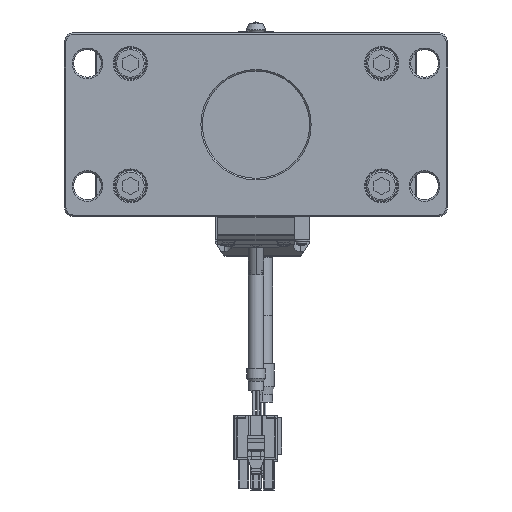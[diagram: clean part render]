
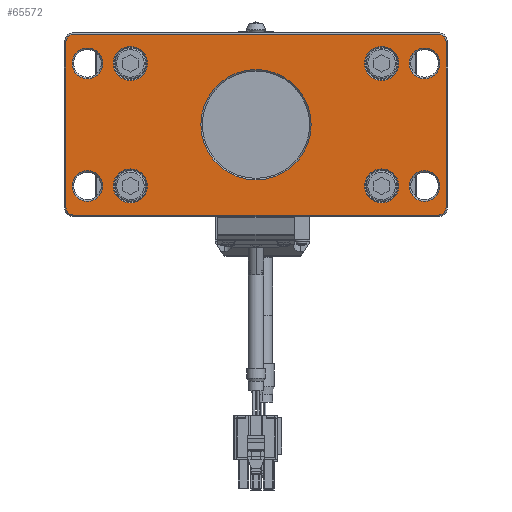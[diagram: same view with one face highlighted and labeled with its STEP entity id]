
A CAD part, front view. The second image highlights one B-rep face of the part: STEP entity #65572.
In plain terms, the highlighted planar face has unit normal (0, -1, 0) as drawn and (0, 1, 0) by its records, which use the part's own axes.
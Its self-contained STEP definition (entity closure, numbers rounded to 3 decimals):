
#64024=CARTESIAN_POINT('',(0.,6.,0.));
#64025=DIRECTION('',(0.,-1.,0.));
#64026=DIRECTION('',(1.,0.,0.));
#64027=AXIS2_PLACEMENT_3D('',#64024,#64025,#64026);
#64029=CARTESIAN_POINT('',(0.,6.,0.));
#64030=DIRECTION('',(0.,-1.,0.));
#64031=DIRECTION('',(-1.,0.,0.));
#64032=AXIS2_PLACEMENT_3D('',#64029,#64030,#64031);
#64034=CARTESIAN_POINT('',(-55.,6.,-20.));
#64035=DIRECTION('',(0.,-1.,0.));
#64036=DIRECTION('',(-1.,0.,0.));
#64037=AXIS2_PLACEMENT_3D('',#64034,#64035,#64036);
#64039=CARTESIAN_POINT('',(-55.,6.,-20.));
#64040=DIRECTION('',(0.,-1.,0.));
#64041=DIRECTION('',(1.,0.,0.));
#64042=AXIS2_PLACEMENT_3D('',#64039,#64040,#64041);
#64044=CARTESIAN_POINT('',(55.,6.,-20.));
#64045=DIRECTION('',(0.,-1.,0.));
#64046=DIRECTION('',(-1.,0.,0.));
#64047=AXIS2_PLACEMENT_3D('',#64044,#64045,#64046);
#64049=CARTESIAN_POINT('',(55.,6.,-20.));
#64050=DIRECTION('',(0.,-1.,0.));
#64051=DIRECTION('',(1.,0.,0.));
#64052=AXIS2_PLACEMENT_3D('',#64049,#64050,#64051);
#64054=CARTESIAN_POINT('',(55.,6.,20.));
#64055=DIRECTION('',(0.,-1.,0.));
#64056=DIRECTION('',(1.,0.,0.));
#64057=AXIS2_PLACEMENT_3D('',#64054,#64055,#64056);
#64059=CARTESIAN_POINT('',(55.,6.,20.));
#64060=DIRECTION('',(0.,-1.,0.));
#64061=DIRECTION('',(-1.,0.,0.));
#64062=AXIS2_PLACEMENT_3D('',#64059,#64060,#64061);
#64064=CARTESIAN_POINT('',(-55.,6.,20.));
#64065=DIRECTION('',(0.,-1.,0.));
#64066=DIRECTION('',(-1.,0.,0.));
#64067=AXIS2_PLACEMENT_3D('',#64064,#64065,#64066);
#64069=CARTESIAN_POINT('',(-55.,6.,20.));
#64070=DIRECTION('',(0.,-1.,0.));
#64071=DIRECTION('',(1.,0.,0.));
#64072=AXIS2_PLACEMENT_3D('',#64069,#64070,#64071);
#64074=CARTESIAN_POINT('',(-59.5,6.,-27.));
#64075=DIRECTION('',(0.,1.,0.));
#64076=DIRECTION('',(0.,0.,-1.));
#64077=AXIS2_PLACEMENT_3D('',#64074,#64075,#64076);
#64079=DIRECTION('',(-1.,0.,0.));
#64080=VECTOR('',#64079,119.);
#64081=CARTESIAN_POINT('',(59.5,6.,
-29.5));
#64082=LINE('',#64081,#64080);
#64083=CARTESIAN_POINT('',(59.5,6.,-27.));
#64084=DIRECTION('',(0.,1.,0.));
#64085=DIRECTION('',(1.,0.,0.));
#64086=AXIS2_PLACEMENT_3D('',#64083,#64084,#64085);
#64088=DIRECTION('',(0.,0.,-1.));
#64089=VECTOR('',#64088,54.);
#64090=CARTESIAN_POINT('',(62.,6.,27.));
#64091=LINE('',#64090,#64089);
#64092=CARTESIAN_POINT('',(59.5,6.,27.));
#64093=DIRECTION('',(0.,1.,0.));
#64094=DIRECTION('',(0.,0.,1.));
#64095=AXIS2_PLACEMENT_3D('',#64092,#64093,#64094);
#64097=DIRECTION('',(1.,0.,0.));
#64098=VECTOR('',#64097,119.);
#64099=CARTESIAN_POINT('',(-59.5,6.,
29.5));
#64100=LINE('',#64099,#64098);
#64101=CARTESIAN_POINT('',(-59.5,6.,27.));
#64102=DIRECTION('',(0.,1.,0.));
#64103=DIRECTION('',(-1.,0.,0.));
#64104=AXIS2_PLACEMENT_3D('',#64101,#64102,#64103);
#64106=DIRECTION('',(0.,0.,1.));
#64107=VECTOR('',#64106,54.);
#64108=CARTESIAN_POINT('',(-62.,6.,
-27.));
#64109=LINE('',#64108,#64107);
#64110=CARTESIAN_POINT('',(41.,6.,20.));
#64111=DIRECTION('',(0.,-1.,0.));
#64112=DIRECTION('',(1.,0.,0.));
#64113=AXIS2_PLACEMENT_3D('',#64110,#64111,#64112);
#64115=CARTESIAN_POINT('',(41.,6.,20.));
#64116=DIRECTION('',(0.,-1.,0.));
#64117=DIRECTION('',(-1.,0.,0.));
#64118=AXIS2_PLACEMENT_3D('',#64115,#64116,#64117);
#64120=CARTESIAN_POINT('',(-41.,6.,20.));
#64121=DIRECTION('',(0.,-1.,0.));
#64122=DIRECTION('',(1.,0.,0.));
#64123=AXIS2_PLACEMENT_3D('',#64120,#64121,#64122);
#64125=CARTESIAN_POINT('',(-41.,6.,20.));
#64126=DIRECTION('',(0.,-1.,0.));
#64127=DIRECTION('',(-1.,0.,0.));
#64128=AXIS2_PLACEMENT_3D('',#64125,#64126,#64127);
#64130=CARTESIAN_POINT('',(41.,6.,-20.));
#64131=DIRECTION('',(0.,-1.,0.));
#64132=DIRECTION('',(1.,0.,0.));
#64133=AXIS2_PLACEMENT_3D('',#64130,#64131,#64132);
#64135=CARTESIAN_POINT('',(41.,6.,-20.));
#64136=DIRECTION('',(0.,-1.,0.));
#64137=DIRECTION('',(-1.,0.,0.));
#64138=AXIS2_PLACEMENT_3D('',#64135,#64136,#64137);
#64140=CARTESIAN_POINT('',(-41.,6.,-20.));
#64141=DIRECTION('',(0.,-1.,0.));
#64142=DIRECTION('',(1.,0.,0.));
#64143=AXIS2_PLACEMENT_3D('',#64140,#64141,#64142);
#64145=CARTESIAN_POINT('',(-41.,6.,-20.));
#64146=DIRECTION('',(0.,-1.,0.));
#64147=DIRECTION('',(-1.,0.,0.));
#64148=AXIS2_PLACEMENT_3D('',#64145,#64146,#64147);
#65056=CARTESIAN_POINT('',(18.,6.,0.));
#65057=CARTESIAN_POINT('',(-18.,6.,0.));
#65058=VERTEX_POINT('',#65056);
#65059=VERTEX_POINT('',#65057);
#65072=CARTESIAN_POINT('',(-60.,6.,-20.));
#65073=CARTESIAN_POINT('',(-50.,6.,-20.));
#65074=VERTEX_POINT('',#65072);
#65075=VERTEX_POINT('',#65073);
#65080=CARTESIAN_POINT('',(50.,6.,-20.));
#65081=CARTESIAN_POINT('',(60.,6.,-20.));
#65082=VERTEX_POINT('',#65080);
#65083=VERTEX_POINT('',#65081);
#65088=CARTESIAN_POINT('',(60.,6.,20.));
#65089=CARTESIAN_POINT('',(50.,6.,20.));
#65090=VERTEX_POINT('',#65088);
#65091=VERTEX_POINT('',#65089);
#65096=CARTESIAN_POINT('',(-60.,6.,20.));
#65097=CARTESIAN_POINT('',(-50.,6.,20.));
#65098=VERTEX_POINT('',#65096);
#65099=VERTEX_POINT('',#65097);
#65168=CARTESIAN_POINT('',(-59.5,6.,-29.5));
#65169=CARTESIAN_POINT('',(-62.,6.,-27.));
#65170=VERTEX_POINT('',#65168);
#65171=VERTEX_POINT('',#65169);
#65176=CARTESIAN_POINT('',(-62.,6.,
27.));
#65177=VERTEX_POINT('',#65176);
#65180=CARTESIAN_POINT('',(-59.5,6.,29.5));
#65181=VERTEX_POINT('',#65180);
#65184=CARTESIAN_POINT('',(59.5,6.,29.5));
#65185=VERTEX_POINT('',#65184);
#65188=CARTESIAN_POINT('',(62.,6.,27.));
#65189=VERTEX_POINT('',#65188);
#65192=CARTESIAN_POINT('',(62.,6.,
-27.));
#65193=VERTEX_POINT('',#65192);
#65196=CARTESIAN_POINT('',(59.5,6.,-29.5));
#65197=VERTEX_POINT('',#65196);
#65216=CARTESIAN_POINT('',(46.55,6.,20.));
#65217=CARTESIAN_POINT('',(35.45,6.,20.));
#65218=VERTEX_POINT('',#65216);
#65219=VERTEX_POINT('',#65217);
#65240=CARTESIAN_POINT('',(-35.45,6.,20.));
#65241=CARTESIAN_POINT('',(-46.55,6.,20.));
#65242=VERTEX_POINT('',#65240);
#65243=VERTEX_POINT('',#65241);
#65256=CARTESIAN_POINT('',(46.55,6.,-20.));
#65257=CARTESIAN_POINT('',(35.45,6.,-20.));
#65258=VERTEX_POINT('',#65256);
#65259=VERTEX_POINT('',#65257);
#65264=CARTESIAN_POINT('',(-35.45,6.,-20.));
#65265=CARTESIAN_POINT('',(-46.55,6.,-20.));
#65266=VERTEX_POINT('',#65264);
#65267=VERTEX_POINT('',#65265);
#65496=CARTESIAN_POINT('',(0.,6.,0.));
#65497=DIRECTION('',(0.,1.,0.));
#65498=DIRECTION('',(1.,0.,0.));
#65499=AXIS2_PLACEMENT_3D('',#65496,#65497,#65498);
#65500=PLANE('',#65499);
#65502=ORIENTED_EDGE('',*,*,#65501,.F.);
#65504=ORIENTED_EDGE('',*,*,#65503,.F.);
#65506=ORIENTED_EDGE('',*,*,#65505,.F.);
#65508=ORIENTED_EDGE('',*,*,#65507,.F.);
#65510=ORIENTED_EDGE('',*,*,#65509,.F.);
#65512=ORIENTED_EDGE('',*,*,#65511,.F.);
#65514=ORIENTED_EDGE('',*,*,#65513,.F.);
#65516=ORIENTED_EDGE('',*,*,#65515,.F.);
#65517=EDGE_LOOP('',(#65502,#65504,#65506,#65508,#65510,#65512,#65514,#65516));
#65518=FACE_OUTER_BOUND('',#65517,.F.);
#65520=ORIENTED_EDGE('',*,*,#65519,.F.);
#65522=ORIENTED_EDGE('',*,*,#65521,.F.);
#65523=EDGE_LOOP('',(#65520,#65522));
#65524=FACE_BOUND('',#65523,.F.);
#65526=ORIENTED_EDGE('',*,*,#65525,.F.);
#65528=ORIENTED_EDGE('',*,*,#65527,.F.);
#65529=EDGE_LOOP('',(#65526,#65528));
#65530=FACE_BOUND('',#65529,.F.);
#65532=ORIENTED_EDGE('',*,*,#65531,.F.);
#65534=ORIENTED_EDGE('',*,*,#65533,.F.);
#65535=EDGE_LOOP('',(#65532,#65534));
#65536=FACE_BOUND('',#65535,.F.);
#65538=ORIENTED_EDGE('',*,*,#65537,.F.);
#65540=ORIENTED_EDGE('',*,*,#65539,.F.);
#65541=EDGE_LOOP('',(#65538,#65540));
#65542=FACE_BOUND('',#65541,.F.);
#65544=ORIENTED_EDGE('',*,*,#65543,.F.);
#65545=ORIENTED_EDGE('',*,*,#65486,.F.);
#65546=EDGE_LOOP('',(#65544,#65545));
#65547=FACE_BOUND('',#65546,.F.);
#65549=ORIENTED_EDGE('',*,*,#65548,.F.);
#65551=ORIENTED_EDGE('',*,*,#65550,.F.);
#65552=EDGE_LOOP('',(#65549,#65551));
#65553=FACE_BOUND('',#65552,.F.);
#65555=ORIENTED_EDGE('',*,*,#65554,.F.);
#65557=ORIENTED_EDGE('',*,*,#65556,.F.);
#65558=EDGE_LOOP('',(#65555,#65557));
#65559=FACE_BOUND('',#65558,.F.);
#65561=ORIENTED_EDGE('',*,*,#65560,.F.);
#65563=ORIENTED_EDGE('',*,*,#65562,.F.);
#65564=EDGE_LOOP('',(#65561,#65563));
#65565=FACE_BOUND('',#65564,.F.);
#65567=ORIENTED_EDGE('',*,*,#65566,.F.);
#65569=ORIENTED_EDGE('',*,*,#65568,.F.);
#65570=EDGE_LOOP('',(#65567,#65569));
#65571=FACE_BOUND('',#65570,.F.);
#65572=ADVANCED_FACE('',(#65518,#65524,#65530,#65536,#65542,#65547,#65553,
#65559,#65565,#65571),#65500,.T.);
#64028=CIRCLE('',#64027,18.);
#64033=CIRCLE('',#64032,18.);
#64038=CIRCLE('',#64037,5.);
#64043=CIRCLE('',#64042,5.);
#64048=CIRCLE('',#64047,5.);
#64053=CIRCLE('',#64052,5.);
#64058=CIRCLE('',#64057,5.);
#64063=CIRCLE('',#64062,5.);
#64068=CIRCLE('',#64067,5.);
#64073=CIRCLE('',#64072,5.);
#64078=CIRCLE('',#64077,2.5);
#64087=CIRCLE('',#64086,2.5);
#64096=CIRCLE('',#64095,2.5);
#64105=CIRCLE('',#64104,2.5);
#64114=CIRCLE('',#64113,5.55);
#64119=CIRCLE('',#64118,5.55);
#64124=CIRCLE('',#64123,5.55);
#64129=CIRCLE('',#64128,5.55);
#64134=CIRCLE('',#64133,5.55);
#64139=CIRCLE('',#64138,5.55);
#64144=CIRCLE('',#64143,5.55);
#64149=CIRCLE('',#64148,5.55);
#65486=EDGE_CURVE('',#65059,#65058,#64033,.T.);
#65501=EDGE_CURVE('',#65170,#65171,#64078,.T.);
#65503=EDGE_CURVE('',#65197,#65170,#64082,.T.);
#65505=EDGE_CURVE('',#65193,#65197,#64087,.T.);
#65507=EDGE_CURVE('',#65189,#65193,#64091,.T.);
#65509=EDGE_CURVE('',#65185,#65189,#64096,.T.);
#65511=EDGE_CURVE('',#65181,#65185,#64100,.T.);
#65513=EDGE_CURVE('',#65177,#65181,#64105,.T.);
#65515=EDGE_CURVE('',#65171,#65177,#64109,.T.);
#65519=EDGE_CURVE('',#65074,#65075,#64038,.T.);
#65521=EDGE_CURVE('',#65075,#65074,#64043,.T.);
#65525=EDGE_CURVE('',#65082,#65083,#64048,.T.);
#65527=EDGE_CURVE('',#65083,#65082,#64053,.T.);
#65531=EDGE_CURVE('',#65090,#65091,#64058,.T.);
#65533=EDGE_CURVE('',#65091,#65090,#64063,.T.);
#65537=EDGE_CURVE('',#65098,#65099,#64068,.T.);
#65539=EDGE_CURVE('',#65099,#65098,#64073,.T.);
#65543=EDGE_CURVE('',#65058,#65059,#64028,.T.);
#65548=EDGE_CURVE('',#65218,#65219,#64114,.T.);
#65550=EDGE_CURVE('',#65219,#65218,#64119,.T.);
#65554=EDGE_CURVE('',#65242,#65243,#64124,.T.);
#65556=EDGE_CURVE('',#65243,#65242,#64129,.T.);
#65560=EDGE_CURVE('',#65258,#65259,#64134,.T.);
#65562=EDGE_CURVE('',#65259,#65258,#64139,.T.);
#65566=EDGE_CURVE('',#65266,#65267,#64144,.T.);
#65568=EDGE_CURVE('',#65267,#65266,#64149,.T.);
